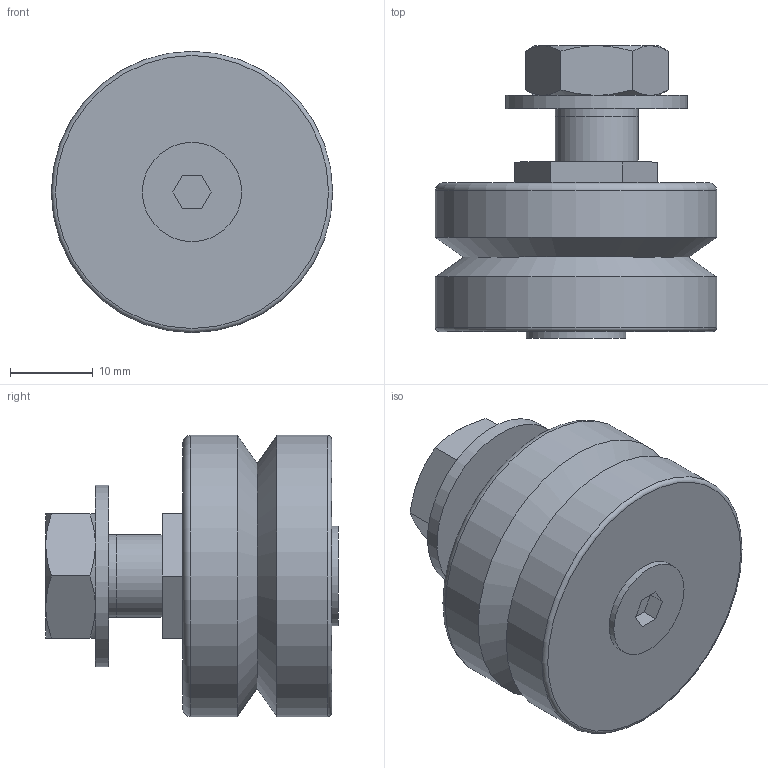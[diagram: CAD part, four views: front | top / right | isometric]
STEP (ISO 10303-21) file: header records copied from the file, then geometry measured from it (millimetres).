
FILE_DESCRIPTION(('STEP AP203'),'1');
FILE_NAME('//192.168.1.1/share/s-4 技術開発/s-4-4_CAD/s-4-4-6_見直し、確認済み/013 修正済み(済)/ジャーナル_TOP/NAS/NAS-34-EW.step','2022-03-11T07:37:44',(' '),(' '),'Spatial InterOp 3D',' ',' ');
FILE_SCHEMA(('CONFIG_CONTROL_DESIGN'));
Length unit declared in the file: millimetre
Products named in the file (3): 1; 2; 3
Bounding box: 34 x 35.35 x 34 mm (x, y, z)
Volume: 18383 mm3; surface area: 6070.1 mm2
Topology: 3 solids, 3 shells, 59 faces, 129 edges, 80 vertices
Faces by surface type: plane 34, cone 14, cylinder 8, torus 2, sphere 1
Full cylindrical faces by diameter (mm): 8.5 x1, 10 x2, 10.5 x1, 12 x1, 22 x1, 34 x2
Entity records: 1740 total; most frequent: CARTESIAN_POINT 390, DIRECTION 250, ORIENTED_EDGE 228, EDGE_CURVE 114, AXIS2_PLACEMENT_3D 98, EDGE_LOOP 80, VERTEX_POINT 78, FACE_OUTER_BOUND 70
